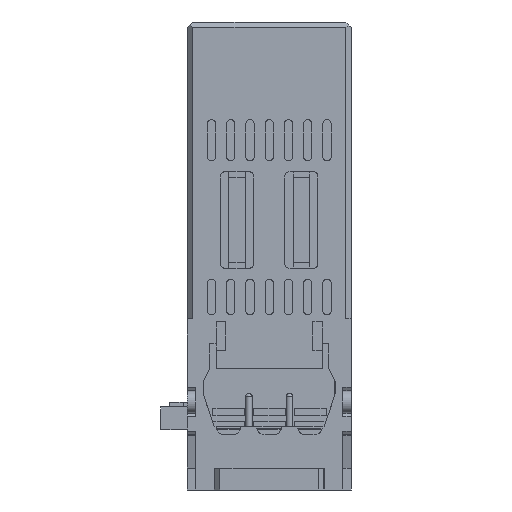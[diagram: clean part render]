
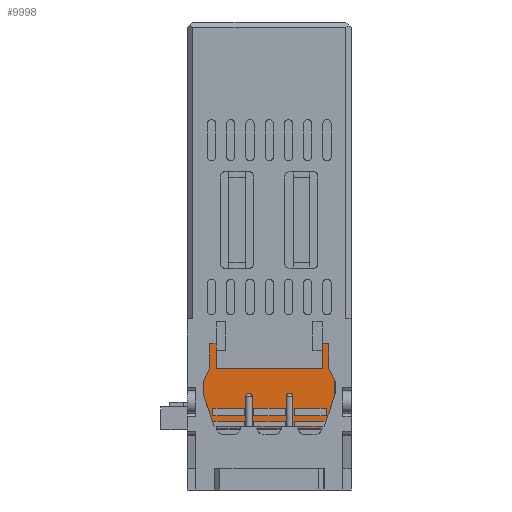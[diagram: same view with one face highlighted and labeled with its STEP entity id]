
A CAD part, front view. The second image highlights one B-rep face of the part: STEP entity #9998.
In plain terms, the highlighted planar face has unit normal (0, -1, 0).
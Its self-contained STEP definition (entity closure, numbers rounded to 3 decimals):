
#991 = PLANE ( 'NONE',  #20305 ) ;
#2249 = VECTOR ( 'NONE', #13788, 1000. ) ;
#4116 = LINE ( 'NONE', #56421, #2249 ) ;
#7354 = CARTESIAN_POINT ( 'NONE',  ( 26.7, 2., -73.843 ) ) ;
#8169 = CARTESIAN_POINT ( 'NONE',  ( 2.7, 2., -57.993 ) ) ;
#9998 = ADVANCED_FACE ( 'NONE', ( #48900 ), #991, .T. ) ;
#10562 = EDGE_LOOP ( 'NONE', ( #29209, #29210, #42766, #38655 ) ) ;
#11343 = EDGE_CURVE ( 'NONE', #18780, #51314, #49227, .T. ) ;
#13656 = CARTESIAN_POINT ( 'NONE',  ( 26.7, 2., -57.993 ) ) ;
#13788 = DIRECTION ( 'NONE',  ( 1., 0., 0. ) ) ;
#18780 = VERTEX_POINT ( 'NONE', #8169 ) ;
#20158 = VECTOR ( 'NONE', #21008, 1000. ) ;
#20305 = AXIS2_PLACEMENT_3D ( 'NONE', #20627, #21224, #38947 ) ;
#20627 = CARTESIAN_POINT ( 'NONE',  ( -31.628, 2., -57.993 ) ) ;
#21008 = DIRECTION ( 'NONE',  ( 1., 0., 0. ) ) ;
#21224 = DIRECTION ( 'NONE',  ( 0., -1., 0. ) ) ;
#25540 = VECTOR ( 'NONE', #35545, 1000. ) ;
#29209 = ORIENTED_EDGE ( 'NONE', *, *, #53255, .F. ) ;
#29210 = ORIENTED_EDGE ( 'NONE', *, *, #11343, .T. ) ;
#29982 = VERTEX_POINT ( 'NONE', #13656 ) ;
#35545 = DIRECTION ( 'NONE',  ( 0., 0., -1. ) ) ;
#37694 = EDGE_CURVE ( 'NONE', #51314, #49317, #4116, .T. ) ;
#38655 = ORIENTED_EDGE ( 'NONE', *, *, #50056, .F. ) ;
#38947 = DIRECTION ( 'NONE',  ( 0., 0., -1. ) ) ;
#42766 = ORIENTED_EDGE ( 'NONE', *, *, #37694, .T. ) ;
#44942 = CARTESIAN_POINT ( 'NONE',  ( -31.628, 2., -57.993 ) ) ;
#46955 = DIRECTION ( 'NONE',  ( 0., 0., -1. ) ) ;
#48900 = FACE_OUTER_BOUND ( 'NONE', #10562, .T. ) ;
#49227 = LINE ( 'NONE', #58606, #25540 ) ;
#49317 = VERTEX_POINT ( 'NONE', #7354 ) ;
#50056 = EDGE_CURVE ( 'NONE', #29982, #49317, #55997, .T. ) ;
#51314 = VERTEX_POINT ( 'NONE', #51325 ) ;
#51316 = CARTESIAN_POINT ( 'NONE',  ( 26.7, 2., -57.993 ) ) ;
#51325 = CARTESIAN_POINT ( 'NONE',  ( 2.7, 2., -73.843 ) ) ;
#53255 = EDGE_CURVE ( 'NONE', #18780, #29982, #59588, .T. ) ;
#55997 = LINE ( 'NONE', #51316, #57103 ) ;
#56421 = CARTESIAN_POINT ( 'NONE',  ( -31.628, 2., -73.843 ) ) ;
#57103 = VECTOR ( 'NONE', #46955, 1000. ) ;
#58606 = CARTESIAN_POINT ( 'NONE',  ( 2.7, 2., -57.993 ) ) ;
#59588 = LINE ( 'NONE', #44942, #20158 ) ;
